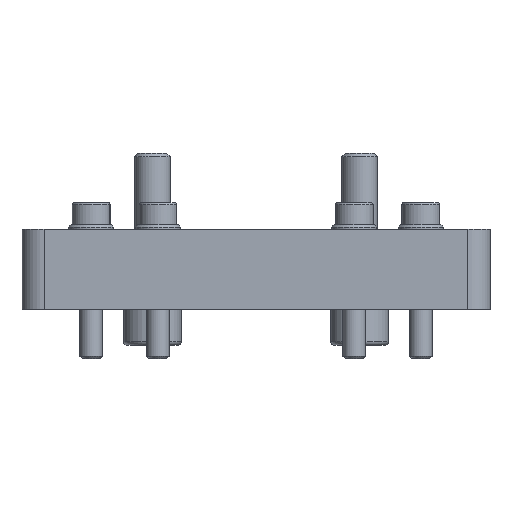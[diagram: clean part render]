
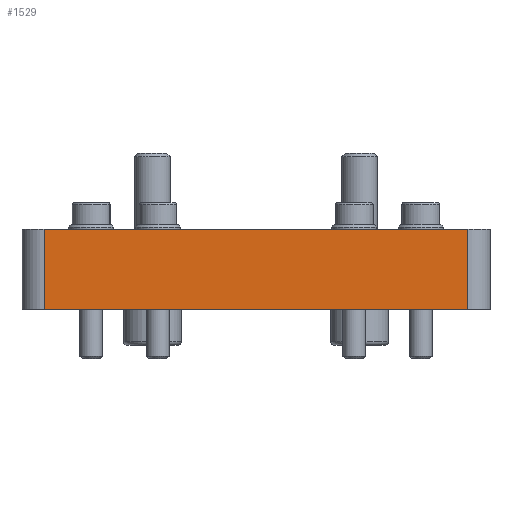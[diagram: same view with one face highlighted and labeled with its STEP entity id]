
A CAD part, front view. The second image highlights one B-rep face of the part: STEP entity #1529.
In plain terms, the highlighted planar face has unit normal (0, -1, 0) as drawn and (1, 0, 0) by its records, which use the part's own axes.
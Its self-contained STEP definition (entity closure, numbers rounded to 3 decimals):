
#293=PLANE('',#1745);
#359=FACE_OUTER_BOUND('',#508,.T.);
#508=EDGE_LOOP('',(#1313,#1314,#1315,#1316));
#580=LINE('',#2396,#652);
#596=LINE('',#2482,#668);
#612=LINE('',#2592,#684);
#613=LINE('',#2594,#685);
#652=VECTOR('',#1889,10.);
#668=VECTOR('',#1977,10.);
#684=VECTOR('',#2115,10.);
#685=VECTOR('',#2118,10.);
#822=VERTEX_POINT('',#2393);
#823=VERTEX_POINT('',#2395);
#856=VERTEX_POINT('',#2479);
#857=VERTEX_POINT('',#2481);
#958=EDGE_CURVE('',#822,#823,#580,.T.);
#1001=EDGE_CURVE('',#856,#857,#596,.T.);
#1046=EDGE_CURVE('',#823,#856,#612,.T.);
#1047=EDGE_CURVE('',#822,#857,#613,.T.);
#1313=ORIENTED_EDGE('',*,*,#1046,.F.);
#1314=ORIENTED_EDGE('',*,*,#958,.F.);
#1315=ORIENTED_EDGE('',*,*,#1047,.T.);
#1316=ORIENTED_EDGE('',*,*,#1001,.F.);
#1529=ADVANCED_FACE('',(#359),#293,.T.);
#1745=AXIS2_PLACEMENT_3D('',#2593,#2116,#2117);
#1889=DIRECTION('',(0.,0.,-1.));
#1977=DIRECTION('',(0.,0.,1.));
#2115=DIRECTION('',(0.,-1.,0.));
#2116=DIRECTION('center_axis',(1.,0.,0.));
#2117=DIRECTION('ref_axis',(0.,0.,-1.));
#2118=DIRECTION('',(0.,-1.,0.));
#2393=CARTESIAN_POINT('',(110.,9.,47.5));
#2395=CARTESIAN_POINT('',(110.,9.,-47.5));
#2396=CARTESIAN_POINT('',(110.,9.,-47.5));
#2479=CARTESIAN_POINT('',(110.,-9.,-47.5));
#2481=CARTESIAN_POINT('',(110.,-9.,47.5));
#2482=CARTESIAN_POINT('',(110.,-9.,-47.5));
#2592=CARTESIAN_POINT('',(110.,0.,-47.5));
#2593=CARTESIAN_POINT('Origin',(110.,0.,47.5));
#2594=CARTESIAN_POINT('',(110.,0.,47.5));
